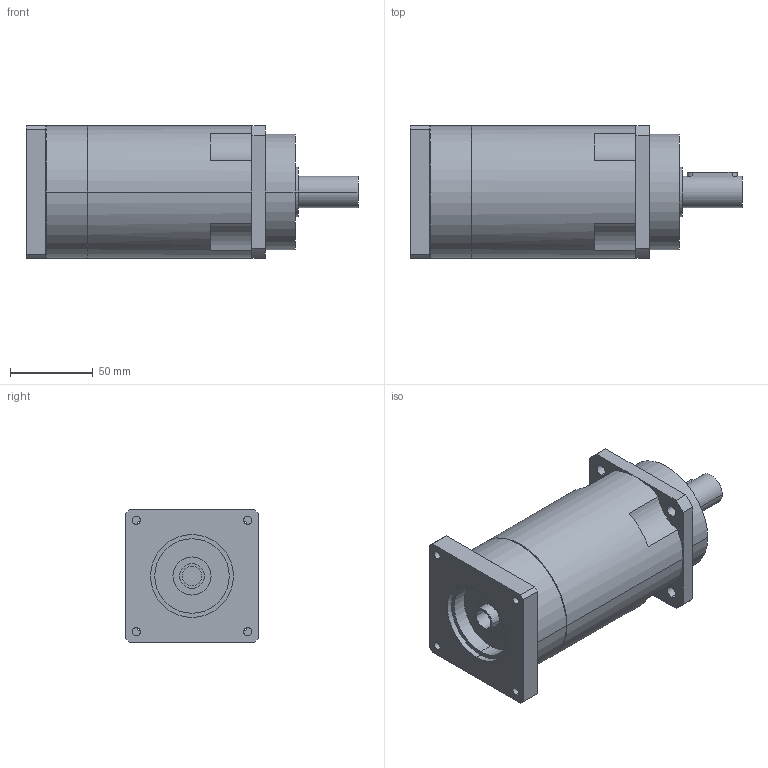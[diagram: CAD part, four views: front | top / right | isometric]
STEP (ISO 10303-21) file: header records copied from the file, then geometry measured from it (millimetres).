
FILE_DESCRIPTION(('CoCreate Modeling STEP Export'),'2;1');
FILE_NAME('GPR100_ig-48-64-80-100-120-144-180-216_19_B5_12.7_P21.stp','2014-08-26T11:54:32',(''),(''),'CoCreate Modeling STEP processor for AP214 (Solid Model)','CoCreate Modeling 16.00C 25-Feb-2009 (C) Parametric Technology GmbH','');
FILE_SCHEMA(('AUTOMOTIVE_DESIGN { 1 0 10303 214 1 1 1 1 }'));
Length unit declared in the file: millimetre
Products named in the file (2): GPR100_ig-48-64-80-100-120-144-180-216_19_B5_12.7_P21
Assembly tree (1 placements, depth 2):
  GPR100_ig-48-64-80-100-120-144-180-216_19_B5_12.7_P21
    GPR100_ig-48-64-80-100-120-144-180-216_19_B5_12.7_P21
Bounding box: 200.4 x 80 x 80 mm (x, y, z)
Volume: 801308.7 mm3; surface area: 64393 mm2
Topology: 1 solids, 1 shells, 89 faces, 243 edges, 165 vertices
Faces by surface type: cylinder 52, plane 31, cone 6
Entity records: 2592 total; most frequent: ORIENTED_EDGE 482, CARTESIAN_POINT 470, DIRECTION 386, EDGE_CURVE 241, VERTEX_POINT 165, AXIS2_PLACEMENT_3D 145, EDGE_LOOP 116, VECTOR 96
